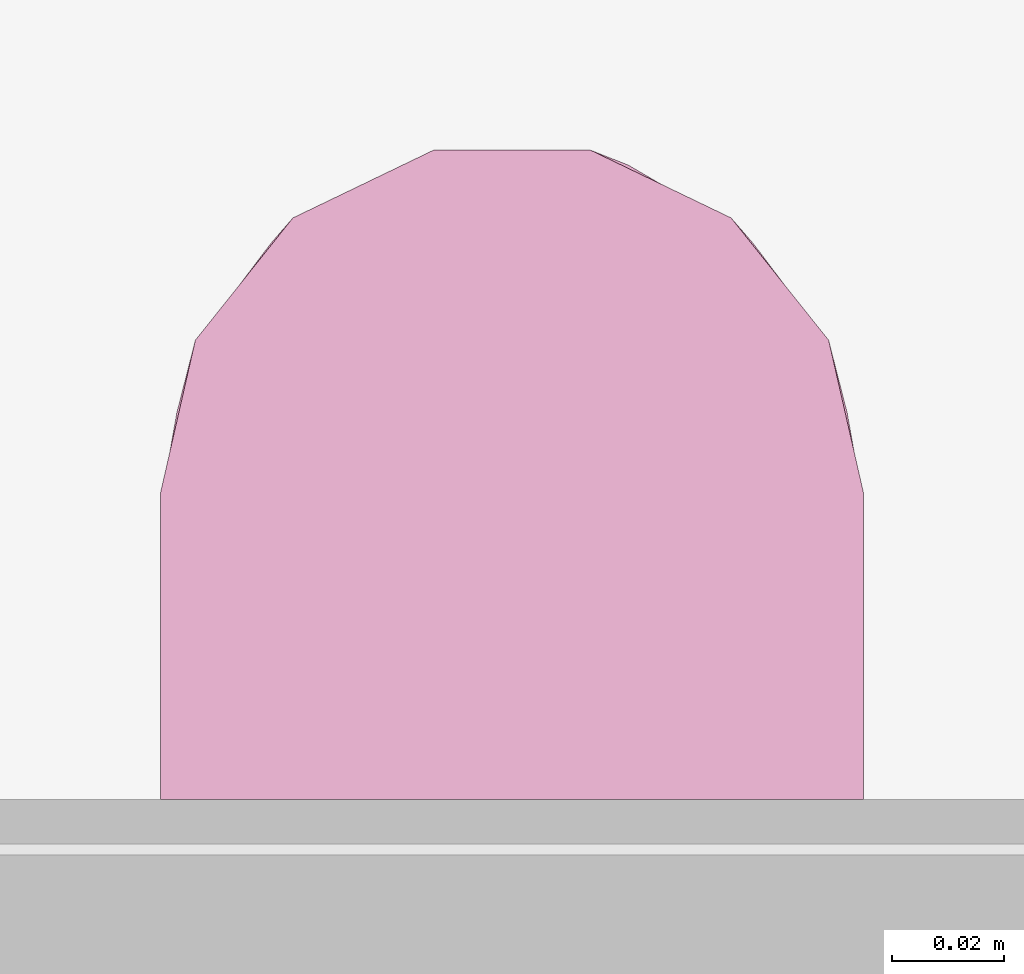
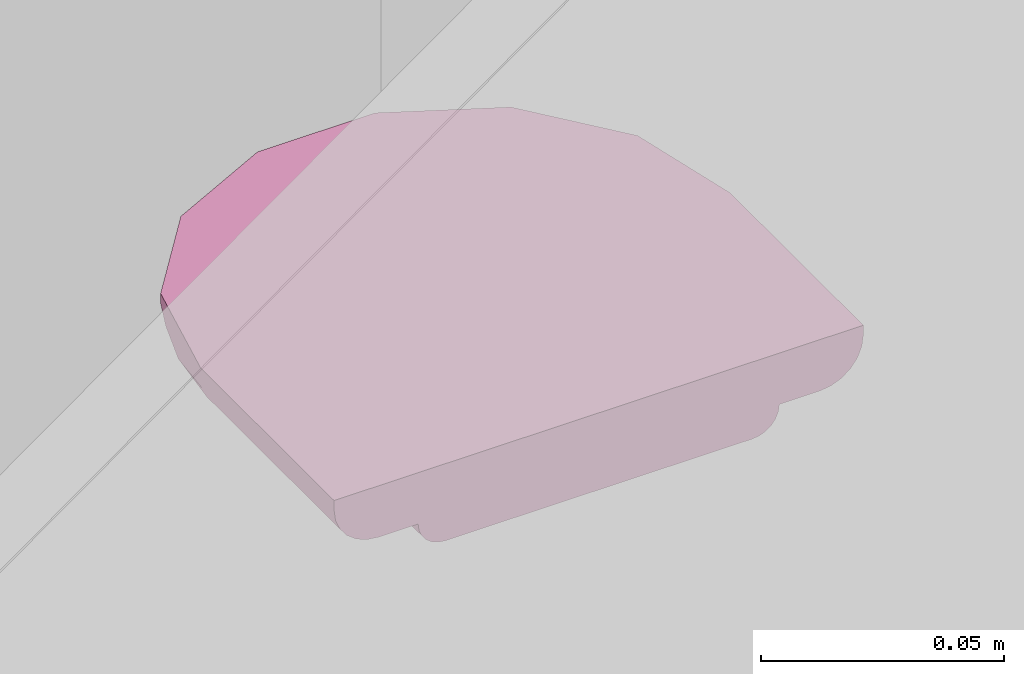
# One storey, part 47 of 48: 1 furniture element.
"""IFC4 building model written with IfcOpenShell, lengths in metres."""

from ifc_helpers import new_model, entity, si_unit, converted_unit, derived_unit, direction, frame, origin, place, context, subcontext, project, spatial, polygons, source, transform, mapped, material, type_object, type_shapes, element, save


model = new_model("IFC4")

# Units and contexts
model_context = context("Model", 3, precision=1e-05, world=origin(), true_north=direction((6.123031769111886e-17, 1.0)))
body_context = subcontext(model_context, "Body", "Model", "MODEL_VIEW")
ifc_project = project(units=[si_unit("LENGTHUNIT", "METRE"), si_unit("AREAUNIT", "SQUARE_METRE"), si_unit("VOLUMEUNIT", "CUBIC_METRE"), converted_unit("PLANEANGLEUNIT", "DEGREE", entity("IfcRatioMeasure", 0.017453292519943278), si_unit("PLANEANGLEUNIT", "RADIAN"), dimensions=[0, 0, 0, 0, 0, 0, 0]), si_unit("MASSUNIT", "GRAM", prefix="KILO"), derived_unit("MASSDENSITYUNIT", [(si_unit("MASSUNIT", "GRAM", prefix="KILO"), 1), (si_unit("LENGTHUNIT", "METRE"), -3)]), derived_unit("IONCONCENTRATIONUNIT", [(si_unit("MASSUNIT", "GRAM", prefix="KILO"), 1), (si_unit("LENGTHUNIT", "METRE"), -3)]), derived_unit("MOMENTOFINERTIAUNIT", [(si_unit("LENGTHUNIT", "METRE"), 4)]), si_unit("TIMEUNIT", "SECOND"), si_unit("FREQUENCYUNIT", "HERTZ"), si_unit("THERMODYNAMICTEMPERATUREUNIT", "DEGREE_CELSIUS"), derived_unit("THERMALTRANSMITTANCEUNIT", [(si_unit("MASSUNIT", "GRAM", prefix="KILO"), 1), (si_unit("THERMODYNAMICTEMPERATUREUNIT", "KELVIN"), -1), (si_unit("TIMEUNIT", "SECOND"), -3)]), derived_unit("THERMALCONDUCTANCEUNIT", [(si_unit("MASSUNIT", "GRAM", prefix="KILO"), 1), (si_unit("THERMODYNAMICTEMPERATUREUNIT", "KELVIN"), -1), (si_unit("TIMEUNIT", "SECOND"), -3), (si_unit("LENGTHUNIT", "METRE"), 1)]), derived_unit("VOLUMETRICFLOWRATEUNIT", [(si_unit("LENGTHUNIT", "METRE"), 3), (si_unit("TIMEUNIT", "SECOND"), -1)]), derived_unit("MASSFLOWRATEUNIT", [(si_unit("MASSUNIT", "GRAM", prefix="KILO"), 1), (si_unit("TIMEUNIT", "SECOND"), -1)]), derived_unit("ROTATIONALFREQUENCYUNIT", [(si_unit("TIMEUNIT", "SECOND"), -1)]), si_unit("ELECTRICCURRENTUNIT", "AMPERE"), si_unit("ELECTRICVOLTAGEUNIT", "VOLT"), si_unit("POWERUNIT", "WATT"), si_unit("FORCEUNIT", "NEWTON", prefix="KILO"), si_unit("ILLUMINANCEUNIT", "LUX"), si_unit("LUMINOUSFLUXUNIT", "LUMEN"), si_unit("LUMINOUSINTENSITYUNIT", "CANDELA"), derived_unit("USERDEFINED", [(si_unit("MASSUNIT", "GRAM", prefix="KILO"), -1), (si_unit("LENGTHUNIT", "METRE"), -2), (si_unit("TIMEUNIT", "SECOND"), 3), (si_unit("LUMINOUSFLUXUNIT", "LUMEN"), 1)]), derived_unit("USERDEFINED", [(si_unit("MASSUNIT", "GRAM", prefix="KILO"), 1), (si_unit("TIMEUNIT", "SECOND"), -3), (si_unit("LENGTHUNIT", "METRE"), 3), (si_unit("ELECTRICCURRENTUNIT", "AMPERE"), -2)]), derived_unit("SOUNDPOWERUNIT", [(si_unit("MASSUNIT", "GRAM", prefix="KILO"), 1), (si_unit("TIMEUNIT", "SECOND"), -3), (si_unit("LENGTHUNIT", "METRE"), 2)]), derived_unit("SOUNDPRESSUREUNIT", [(si_unit("MASSUNIT", "GRAM", prefix="KILO"), 1), (si_unit("LENGTHUNIT", "METRE"), -1), (si_unit("TIMEUNIT", "SECOND"), -2)]), derived_unit("LINEARVELOCITYUNIT", [(si_unit("LENGTHUNIT", "METRE"), 1), (si_unit("TIMEUNIT", "SECOND"), -1)]), si_unit("PRESSUREUNIT", "PASCAL"), derived_unit("USERDEFINED", [(si_unit("MASSUNIT", "GRAM", prefix="KILO"), 1), (si_unit("LENGTHUNIT", "METRE"), -2), (si_unit("TIMEUNIT", "SECOND"), -2)]), derived_unit("LINEARFORCEUNIT", [(si_unit("MASSUNIT", "GRAM", prefix="KILO"), 1), (si_unit("TIMEUNIT", "SECOND"), -2)]), derived_unit("PLANARFORCEUNIT", [(si_unit("MASSUNIT", "GRAM", prefix="KILO"), 1), (si_unit("LENGTHUNIT", "METRE"), -1), (si_unit("TIMEUNIT", "SECOND"), -2)]), derived_unit("SPECIFICHEATCAPACITYUNIT", [(si_unit("THERMODYNAMICTEMPERATUREUNIT", "KELVIN"), -1), (si_unit("LENGTHUNIT", "METRE"), 2), (si_unit("TIMEUNIT", "SECOND"), -2)]), derived_unit("HEATINGVALUEUNIT", [(si_unit("LENGTHUNIT", "METRE"), 2), (si_unit("TIMEUNIT", "SECOND"), -2)]), derived_unit("VAPORPERMEABILITYUNIT", [(si_unit("LENGTHUNIT", "METRE"), -1), (si_unit("TIMEUNIT", "SECOND"), 1)]), derived_unit("DYNAMICVISCOSITYUNIT", [(si_unit("MASSUNIT", "GRAM", prefix="KILO"), 1), (si_unit("TIMEUNIT", "SECOND"), -1), (si_unit("LENGTHUNIT", "METRE"), -1)]), derived_unit("THERMALEXPANSIONCOEFFICIENTUNIT", [(si_unit("THERMODYNAMICTEMPERATUREUNIT", "KELVIN"), -1)]), derived_unit("MODULUSOFELASTICITYUNIT", [(si_unit("MASSUNIT", "GRAM", prefix="KILO"), 1), (si_unit("LENGTHUNIT", "METRE"), -1), (si_unit("TIMEUNIT", "SECOND"), -2)]), derived_unit("ISOTHERMALMOISTURECAPACITYUNIT", [(si_unit("LENGTHUNIT", "METRE"), 3), (si_unit("MASSUNIT", "GRAM", prefix="KILO"), -1)]), derived_unit("MOISTUREDIFFUSIVITYUNIT", [(si_unit("TIMEUNIT", "SECOND"), -1), (si_unit("LENGTHUNIT", "METRE"), 2)])], contexts=[model_context])

# Site, building, storey, space
site_placement = place(None, origin())
site = spatial("IfcSite", under=ifc_project, at=site_placement, Name="Default", CompositionType="ELEMENT")
building_placement = place(site_placement, origin())
building = spatial("IfcBuilding", under=site, at=building_placement, CompositionType="ELEMENT")
storey_placement = place(building_placement, frame((0.0, 0.0, 9.40000000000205)))
storey = spatial("IfcBuildingStorey", under=building, at=storey_placement, Name="Nivel 5", CompositionType="ELEMENT", Elevation=9.40000000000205)
space_placement = place(storey_placement, origin())
space = spatial("IfcSpace", under=storey, at=space_placement, Name="276", CompositionType="ELEMENT", PredefinedType="SPACE")

# Furniture
ifc_material = material(Name="CERAMICA APARATOS", Category="Materials")
furniture_type = type_object("IfcFurnitureType", Name="E2050 - Jabonera:E2050 - Jabonera - Ceramica", AssemblyPlace="NOTDEFINED", PredefinedType="NOTDEFINED", material=ifc_material)
shared_shape = source(origin(), body_context, "Body", "Tessellation", [
    polygons([(-0.05252423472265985, -0.012920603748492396, -3.98642579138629e-15), (-0.05523556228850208, -0.012563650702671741, -3.97690233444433e-15), (-0.05776211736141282, -0.011517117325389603, -3.958155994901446e-15), (-0.059931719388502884, -0.00985232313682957, -3.931464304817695e-15), (-0.06159651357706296, -0.007682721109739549, -3.898646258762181e-15), (-0.06264304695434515, -0.005156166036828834, -3.8619383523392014e-15), (-0.0630000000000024, -0.002444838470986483, -3.823842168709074e-15), (-0.0630000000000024, -8.82367512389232e-15, -3.79003495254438e-15), (0.06300000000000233, -8.823675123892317e-15, -4.003224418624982e-15), (0.06300000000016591, -0.002444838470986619, -4.037031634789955e-15), (0.06264304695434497, -0.0051561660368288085, -4.073919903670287e-15), (0.06159651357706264, -0.007682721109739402, -4.107086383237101e-15), (0.059931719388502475, -0.009852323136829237, -4.134270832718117e-15), (0.05776211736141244, -0.011517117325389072, -4.153620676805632e-15), (0.055235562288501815, -0.012563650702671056, -4.163817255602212e-15), (0.05252423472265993, -0.012920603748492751, -4.164165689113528e-15), (0.04300000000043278, -0.01292060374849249, -4.1480508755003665e-15), (0.042779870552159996, -0.01459265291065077, -4.170799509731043e-15), (0.04213448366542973, -0.01615075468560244, -4.191252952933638e-15), (0.041107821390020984, -0.01748872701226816, -4.20801733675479e-15), (0.03976984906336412, -0.018515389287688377, -4.219950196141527e-15), (0.03821174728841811, -0.019160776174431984, -4.226238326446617e-15), (0.03653969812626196, -0.019380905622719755, -4.226453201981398e-15), (-0.03653969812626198, -0.019380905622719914, -4.1028043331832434e-15), (-0.03821174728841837, -0.019160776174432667, -4.096931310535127e-15), (-0.03976984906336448, -0.018515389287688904, -4.08537062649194e-15), (-0.04110782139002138, -0.017488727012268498, -4.068910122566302e-15), (-0.042134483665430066, -0.01615075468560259, -4.0486715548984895e-15), (-0.04277987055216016, -0.014592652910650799, -4.026034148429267e-15), (-0.04300000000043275, -0.012920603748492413, -4.002540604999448e-15), (-0.05252423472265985, -0.012920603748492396, 0.05500000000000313), (-0.05523556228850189, -0.012563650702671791, 0.05500000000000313), (-0.05776211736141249, -0.011517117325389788, 0.05500000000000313), (-0.0599317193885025, -0.009852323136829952, 0.05500000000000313), (-0.06159651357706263, -0.007682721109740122, 0.05500000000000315), (-0.06264304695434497, -0.005156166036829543, 0.05500000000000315), (-0.06300000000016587, -0.0024448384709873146, 0.055000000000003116), (-0.0630000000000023, -9.584537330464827e-15, 0.05500000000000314), (-0.05676103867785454, -9.98278301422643e-15, 0.08233467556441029), (-0.03927985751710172, -1.0341963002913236e-14, 0.10425538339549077), (-0.014018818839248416, -1.0591040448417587e-14, 0.11642045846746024), (0.014018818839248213, -1.0680682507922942e-14, 0.11642045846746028), (0.03927985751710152, -1.0593134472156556e-14, 0.1042553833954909), (0.05676103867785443, -1.0345736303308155e-14, 0.08233467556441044), (0.06300000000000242, -9.987488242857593e-15, 0.055000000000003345), (-0.036539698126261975, -0.019380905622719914, 0.055000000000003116), (-0.03821174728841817, -0.019160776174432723, 0.055000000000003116), (-0.03976984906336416, -0.018515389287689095, 0.055000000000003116), (-0.04110782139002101, -0.017488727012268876, 0.055000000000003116), (-0.04213448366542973, -0.016150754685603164, 0.055000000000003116), (-0.042779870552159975, -0.014592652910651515, 0.055000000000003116), (-0.04300000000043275, -0.012920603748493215, 0.05500000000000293), (-0.03723909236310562, -0.012920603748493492, 0.07650000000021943), (-0.021500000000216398, -0.012920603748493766, 0.09223909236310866), (-7.613909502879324e-17, -0.012920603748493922, 0.09800000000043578), (0.021500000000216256, -0.012920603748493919, 0.09223909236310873), (0.03723909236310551, -0.012920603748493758, 0.07650000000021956), (0.04300000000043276, -0.012920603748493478, 0.05500000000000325), (0.05252423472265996, -0.012920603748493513, 0.05500000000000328), (0.04732270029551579, -0.012920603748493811, 0.0777894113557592), (0.03274832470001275, -0.012920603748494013, 0.09606510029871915), (0.011687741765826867, -0.012920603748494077, 0.106207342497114), (-0.011687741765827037, -0.012920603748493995, 0.10620734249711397), (-0.0327483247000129, -0.012920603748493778, 0.09606510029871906), (-0.0473227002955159, -0.012920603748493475, 0.07778941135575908), (0.05523556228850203, -0.012563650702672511, 0.05500000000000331), (0.05776211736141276, -0.011517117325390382, 0.05500000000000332), (0.059931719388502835, -0.009852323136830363, 0.055000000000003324), (0.06159651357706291, -0.007682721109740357, 0.05500000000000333), (0.06264304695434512, -0.005156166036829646, 0.055000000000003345), (0.06300000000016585, -0.002444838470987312, 0.055000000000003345), (0.05676103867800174, -0.002444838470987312, 0.08233467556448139), (0.039279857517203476, -0.002444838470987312, 0.10425538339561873), (0.014018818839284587, -0.002444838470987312, 0.11642045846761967), (-0.01401881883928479, -0.002444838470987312, 0.11642045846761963), (-0.03927985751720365, -0.002444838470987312, 0.10425538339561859), (-0.056761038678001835, -0.002444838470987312, 0.08233467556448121), (-0.05541537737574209, -0.00994065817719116, 0.0775884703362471), (0.05541537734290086, -0.009940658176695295, 0.07758847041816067), (-0.06068843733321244, -0.002444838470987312, 0.06512761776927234), (0.06068843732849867, -0.002444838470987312, 0.06512761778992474), (-0.06009482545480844, -0.0073735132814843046, 0.06927989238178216), (0.06009482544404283, -0.007373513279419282, 0.06927989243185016), (1.1920939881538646e-10, -0.009647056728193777, 0.11513144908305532), (-0.02296028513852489, -0.010016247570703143, 0.11017763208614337), (0.022960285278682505, -0.010016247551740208, 0.11017763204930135), (-0.0423486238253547, -0.010229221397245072, 0.09684448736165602), (0.04234862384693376, -0.010229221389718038, 0.09684448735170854), (-0.049923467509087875, -0.012920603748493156, 0.06639470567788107), (0.04992346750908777, -0.012920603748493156, 0.06639470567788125), (-0.05703578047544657, -0.0065083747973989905, 0.07976375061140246), (-0.048020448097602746, -0.002444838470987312, 0.0932950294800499), (-0.05024267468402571, -0.007894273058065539, 0.09041697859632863), (-0.04930529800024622, -0.01152280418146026, 0.08507175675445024), (-0.04320181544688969, -0.006488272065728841, 0.09973226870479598), (-0.026649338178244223, -0.002444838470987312, 0.11033792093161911), (-0.033651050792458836, -0.008354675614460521, 0.10608663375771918), (-0.033585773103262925, -0.011709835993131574, 0.10156463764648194), (-0.04003551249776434, -0.012920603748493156, 0.08692725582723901), (-0.020861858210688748, -0.0061859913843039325, 0.11371301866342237), (-0.008798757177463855, -0.006760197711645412, 0.11644307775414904), (-1.0151879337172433e-16, -0.002444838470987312, 0.11642045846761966), (-0.011582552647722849, -0.010395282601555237, 0.1132044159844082), (-8.671396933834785e-17, -0.012920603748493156, 0.10620734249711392), (0.005858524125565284, -0.012067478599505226, 0.1113613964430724), (0.011714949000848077, -0.009815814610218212, 0.11381264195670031), (0.01809843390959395, -0.006648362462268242, 0.11442472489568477), (0.02664933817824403, -0.002444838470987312, 0.11033792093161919), (0.033532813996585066, -0.007293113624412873, 0.10692394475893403), (0.03311804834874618, -0.010897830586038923, 0.10347984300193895), (0.05703578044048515, -0.006508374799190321, 0.07976375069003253), (0.0480204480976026, -0.002444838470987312, 0.09329502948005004), (0.050242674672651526, -0.007894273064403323, 0.09041697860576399), (0.04930529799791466, -0.01152280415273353, 0.08507175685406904), (0.043201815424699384, -0.006488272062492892, 0.09973226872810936), (-0.022218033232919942, -0.012920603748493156, 0.10113622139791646), (0.02221803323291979, -0.012920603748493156, 0.10113622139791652), (0.04003551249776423, -0.012920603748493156, 0.08692725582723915), (-0.05917785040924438, -0.002444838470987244, 0.07174593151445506), (-0.059880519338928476, -9.58464048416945e-15, 0.06866733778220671), (-0.04802044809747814, -9.584640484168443e-15, 0.09329502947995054), (-0.02664933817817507, -9.584640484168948e-15, 0.11033792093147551), (-1.0151879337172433e-16, -9.584640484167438e-15, 0.11642045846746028), (0.026649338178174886, -9.584640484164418e-15, 0.1103379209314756), (0.048020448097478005, -9.584640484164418e-15, 0.09329502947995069), (0.05917785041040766, -9.584640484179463e-15, 0.07174593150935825), (0.05988051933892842, -0.002444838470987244, 0.06866733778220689), (-0.03529463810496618, -0.019380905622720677, 0.0644571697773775), (-0.031644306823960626, -0.019380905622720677, 0.07326984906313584), (-0.025837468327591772, -0.019380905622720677, 0.08083746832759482), (-0.018269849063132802, -0.019380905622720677, 0.08664430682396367), (-0.009457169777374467, -0.019380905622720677, 0.09029463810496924), (-6.388409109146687e-17, -0.019380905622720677, 0.09153969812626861), (0.00945716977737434, -0.019380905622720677, 0.09029463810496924), (0.018269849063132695, -0.019380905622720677, 0.08664430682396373), (0.025837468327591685, -0.019380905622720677, 0.08083746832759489), (0.03164430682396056, -0.019380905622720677, 0.07326984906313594), (0.035294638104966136, -0.019380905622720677, 0.06445716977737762), (0.03653969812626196, -0.019380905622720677, 0.05500000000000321), (0.03821174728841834, -0.01916077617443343, 0.05500000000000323), (0.03976984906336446, -0.01851538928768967, 0.055000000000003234), (0.041107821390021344, -0.01748872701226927, 0.05500000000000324), (0.04213448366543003, -0.01615075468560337, 0.05500000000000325), (0.04277987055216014, -0.014592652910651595, 0.05500000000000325), (-0.039354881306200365, -0.01681536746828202, 0.06876876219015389), (0.039354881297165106, -0.016815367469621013, 0.0687687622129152), (-0.03969397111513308, -0.012920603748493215, 0.06733826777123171), (0.039693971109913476, -0.012920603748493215, 0.06733826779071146), (-0.029990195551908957, -0.017045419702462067, 0.0837021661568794), (0.02999019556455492, -0.017045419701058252, 0.08370216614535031), (-0.014068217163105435, -0.017293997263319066, 0.09382432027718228), (0.0140682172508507, -0.01729399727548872, 0.0938243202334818), (-0.0414288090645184, -0.016256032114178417, 0.06233060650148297), (0.04142880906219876, -0.016256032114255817, 0.06233060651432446), (-0.03509474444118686, -0.018469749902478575, 0.07387308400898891), (0.03509474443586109, -0.018469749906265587, 0.07387308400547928), (-0.022452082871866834, -0.018468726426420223, 0.08792225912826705), (-0.004758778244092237, -0.018468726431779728, 0.09456419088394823), (0.022452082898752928, -0.018468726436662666, 0.08792225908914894), (-0.010750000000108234, -0.012920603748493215, 0.09511954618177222), (-0.01649269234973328, -0.014958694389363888, 0.09435387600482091), (-0.02403627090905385, -0.015817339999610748, 0.08982450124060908), (-0.029369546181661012, -0.012920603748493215, 0.08436954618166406), (-0.005391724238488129, -0.015874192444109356, 0.09694013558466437), (0.003951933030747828, -0.017201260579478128, 0.09618908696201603), (-0.029447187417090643, -0.018870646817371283, 0.08065629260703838), (0.029447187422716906, -0.018870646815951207, 0.08065629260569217), (0.004753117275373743, -0.01891047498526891, 0.09366878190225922), (0.01247662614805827, -0.01887114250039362, 0.09200843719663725), (-0.013974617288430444, -0.018938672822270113, 0.09129118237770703), (0.021812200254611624, -0.016118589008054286, 0.09107073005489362), (-0.035603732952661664, -0.016145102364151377, 0.07753804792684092), (0.03560373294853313, -0.01614510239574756, 0.07753804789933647), (-0.0379779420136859, -0.01877351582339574, 0.06500795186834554), (0.03797794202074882, -0.018773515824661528, 0.06500795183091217), (0.029369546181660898, -0.012920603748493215, 0.08436954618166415), (0.010750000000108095, -0.012920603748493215, 0.09511954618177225)], [[[8, 9, 10, 11, 12, 13, 14, 15, 16, 17, 18, 19, 20, 21, 22, 23, 24, 25, 26, 27, 28, 29, 30, 1, 2, 3, 4, 5, 6, 7]], [[1, 31, 32, 2]], [[24, 46, 47, 25]], [[2, 32, 33, 3]], [[25, 47, 48, 26]], [[3, 33, 34, 4]], [[26, 48, 49, 27]], [[5, 35, 36, 6]], [[50, 51, 29, 28]], [[6, 36, 37, 7]], [[51, 52, 30, 29]], [[4, 34, 35, 5]], [[27, 49, 50, 28]], [[8, 7, 37, 38]], [[8, 38, 120, 39, 121, 40, 122, 41, 123, 42, 124, 43, 125, 44, 126, 45, 9]], [[17, 16, 59, 90, 60, 118, 61, 117, 62, 104, 63, 116, 64, 99, 65, 89, 31, 1, 30, 52, 147, 53, 163, 54, 160, 55, 177, 56, 176, 57, 148, 58]], [[133, 132, 131, 130, 129, 128, 46, 24, 23, 139, 138, 137, 136, 135, 134]], [[78, 33, 32]], [[90, 66, 79]], [[94, 87, 93]], [[65, 94, 89]], [[80, 37, 36]], [[36, 82, 80]], [[94, 99, 87]], [[70, 71, 81]], [[109, 107, 86]], [[116, 98, 64]], [[82, 36, 35]], [[93, 95, 92]], [[78, 94, 93]], [[34, 33, 82]], [[91, 92, 77]], [[97, 95, 87]], [[34, 82, 35]], [[33, 78, 82]], [[91, 82, 78]], [[82, 77, 119, 80]], [[77, 82, 91]], [[113, 115, 88]], [[63, 104, 103]], [[95, 93, 87]], [[105, 86, 106]], [[93, 91, 78]], [[98, 85, 97]], [[61, 118, 110]], [[66, 67, 79]], [[110, 88, 109]], [[76, 95, 97]], [[114, 90, 79]], [[105, 106, 84]], [[83, 67, 68]], [[32, 89, 78]], [[74, 107, 108]], [[111, 113, 79]], [[90, 59, 66]], [[79, 83, 111]], [[101, 75, 100]], [[83, 79, 67]], [[83, 81, 127, 72]], [[84, 102, 101]], [[81, 83, 70]], [[69, 83, 68]], [[32, 31, 89]], [[101, 103, 84]], [[105, 84, 103]], [[114, 79, 113]], [[70, 83, 69]], [[92, 91, 93]], [[89, 94, 78]], [[87, 99, 98]], [[100, 75, 96]], [[92, 95, 76]], [[87, 98, 97]], [[100, 97, 85]], [[76, 97, 96]], [[65, 99, 94]], [[103, 116, 63]], [[97, 100, 96]], [[64, 98, 99]], [[103, 101, 100]], [[103, 100, 85]], [[103, 85, 116]], [[106, 107, 84]], [[102, 75, 101]], [[104, 105, 103]], [[61, 110, 117]], [[105, 104, 62]], [[86, 105, 62]], [[86, 107, 106]], [[107, 102, 84]], [[108, 107, 109]], [[102, 107, 74]], [[108, 109, 73]], [[110, 109, 86]], [[111, 72, 112]], [[110, 86, 117]], [[60, 114, 118]], [[83, 72, 111]], [[88, 114, 113]], [[115, 109, 88]], [[111, 112, 113]], [[115, 112, 73]], [[114, 88, 118]], [[90, 114, 60]], [[112, 115, 113]], [[109, 115, 73]], [[98, 116, 85]], [[86, 62, 117]], [[110, 118, 88]], [[77, 39, 120, 38, 37, 80, 119]], [[121, 39, 77, 92, 76, 40]], [[126, 44, 72, 127, 81, 71, 45]], [[96, 75, 41, 122, 40, 76]], [[123, 41, 75, 102, 74, 42]], [[73, 43, 124, 42, 74, 108]], [[43, 73, 112, 72, 44, 125]], [[46, 128, 174]], [[133, 134, 168]], [[146, 156, 175]], [[128, 155, 174]], [[130, 131, 157]], [[151, 161, 162]], [[131, 170, 157]], [[147, 52, 51]], [[155, 145, 174]], [[156, 137, 138]], [[166, 157, 149]], [[131, 132, 170]], [[147, 145, 53]], [[173, 176, 150]], [[51, 50, 153]], [[161, 54, 162]], [[153, 49, 48]], [[165, 55, 164]], [[166, 129, 130]], [[151, 162, 157]], [[173, 150, 156]], [[154, 146, 175]], [[144, 58, 148]], [[48, 174, 153]], [[167, 159, 136]], [[174, 48, 47]], [[151, 170, 158]], [[151, 158, 164]], [[152, 165, 169]], [[173, 156, 146]], [[172, 155, 149]], [[136, 159, 135]], [[136, 137, 167]], [[148, 146, 154]], [[156, 138, 175]], [[155, 172, 145]], [[144, 154, 143]], [[159, 152, 169]], [[166, 155, 129]], [[175, 139, 140]], [[154, 141, 142]], [[145, 147, 153]], [[49, 153, 50]], [[152, 159, 171]], [[154, 142, 143]], [[154, 175, 141]], [[162, 163, 149]], [[171, 56, 177]], [[146, 148, 57]], [[158, 132, 133]], [[54, 161, 160]], [[148, 154, 144]], [[160, 161, 164]], [[155, 128, 129]], [[51, 153, 147]], [[165, 168, 169]], [[167, 156, 150]], [[150, 176, 171]], [[164, 161, 151]], [[53, 172, 163]], [[157, 162, 149]], [[162, 54, 163]], [[165, 164, 158]], [[160, 164, 55]], [[158, 133, 168]], [[152, 177, 165]], [[157, 166, 130]], [[155, 166, 149]], [[156, 167, 137]], [[159, 167, 150]], [[168, 134, 169]], [[158, 168, 165]], [[134, 135, 169]], [[159, 169, 135]], [[158, 170, 132]], [[157, 170, 151]], [[150, 171, 159]], [[55, 165, 177]], [[163, 172, 149]], [[53, 145, 172]], [[146, 57, 173]], [[171, 177, 152]], [[174, 145, 153]], [[46, 174, 47]], [[139, 175, 138]], [[141, 175, 140]], [[176, 173, 57]], [[56, 171, 176]], [[59, 16, 15, 66]], [[139, 23, 22, 140]], [[66, 15, 14, 67]], [[140, 22, 21, 141]], [[67, 14, 13, 68]], [[141, 21, 20, 142]], [[69, 12, 11, 70]], [[19, 18, 144, 143]], [[70, 11, 10, 71]], [[18, 17, 58, 144]], [[68, 13, 12, 69]], [[142, 20, 19, 143]], [[45, 71, 10, 9]]], closed=True),
])
type_shapes(furniture_type, [shared_shape])
furniture_placement = place(space_placement, frame((15.447498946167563, -6.355000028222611, 1.2499999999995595), z_axis=(0.0, 1.0, 0.0), x_axis=(-1.0, 0.0, 0.0)))
element("IfcFurniture", 1, at=furniture_placement, inside=space, type_object=furniture_type, material=ifc_material, Name="E2050 - Jabonera:E2050 - Jabonera - Ceramica", ObjectType="E2050 - Jabonera:E2050 - Jabonera - Ceramica", PredefinedType="NOTDEFINED", context=body_context, shape_type="MappedRepresentation", body=[
    mapped(shared_shape, transform((0.0, 0.0, 0.0), scale=1.0)),
])

save(model, "model.ifc")
